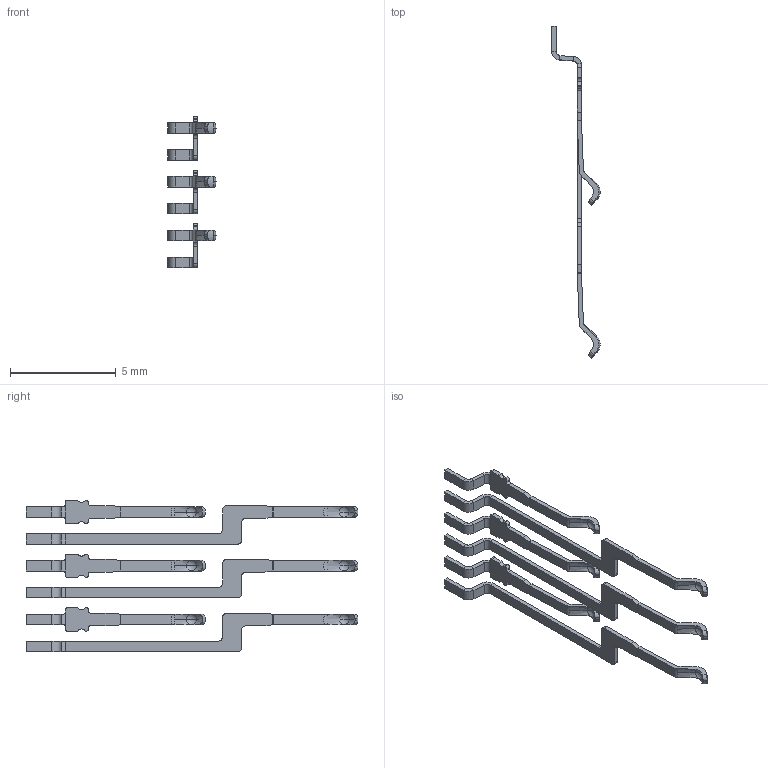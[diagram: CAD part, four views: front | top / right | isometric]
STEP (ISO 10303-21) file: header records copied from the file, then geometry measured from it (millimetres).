
FILE_DESCRIPTION((''),'2;1');
FILE_NAME('T-DSC20-200X00-C_AF0_ASM_1_ASM','2008-06-30T',('GRA'),(''),'PRO/ENGINEER BY PARAMETRIC TECHNOLOGY CORPORATION, 2006170','PRO/ENGINEER BY PARAMETRIC TECHNOLOGY CORPORATION, 2006170','');
FILE_SCHEMA(('CONFIG_CONTROL_DESIGN'));
Length unit declared in the file: millimetre
Products named in the file (3): T-DSC20-200X00-1_1_PRT; T-DSC20-200X00-2_1_PRT; T-DSC20-200X00-C_AF0_ASM_1_ASM
Assembly tree (6 placements, depth 2):
  T-DSC20-200X00-C_AF0_ASM_1_ASM
    T-DSC20-200X00-1_1_PRT  x3
    T-DSC20-200X00-2_1_PRT  x3
Bounding box: 2.28 x 15.69 x 7.15 mm (x, y, z)
Volume: 9.2 mm3; surface area: 127.5 mm2
Topology: 6 solids, 6 shells, 351 faces, 930 edges, 567 vertices
Faces by surface type: plane 201, cylinder 96, cone 24, sphere 24, torus 6
Entity records: 3884 total; most frequent: CARTESIAN_POINT 927, DIRECTION 606, ORIENTED_EDGE 604, EDGE_CURVE 302, AXIS2_PLACEMENT_3D 216, VERTEX_POINT 189, VECTOR 174, LINE 174
